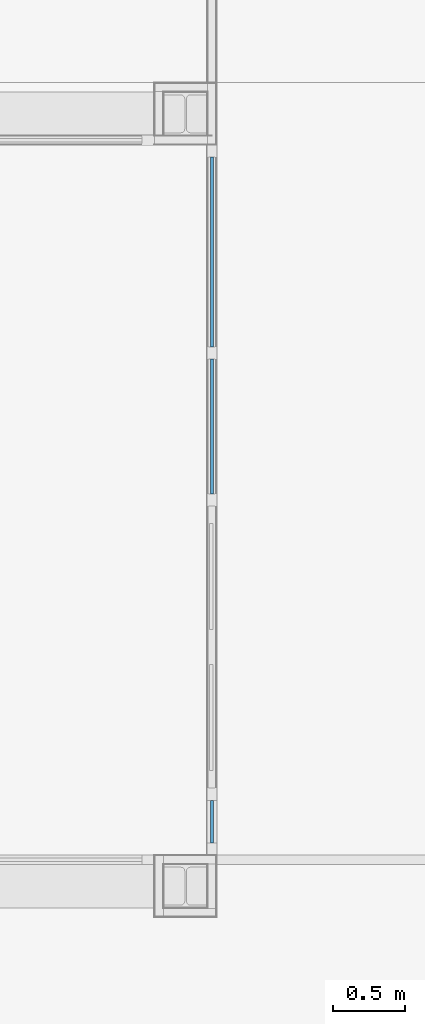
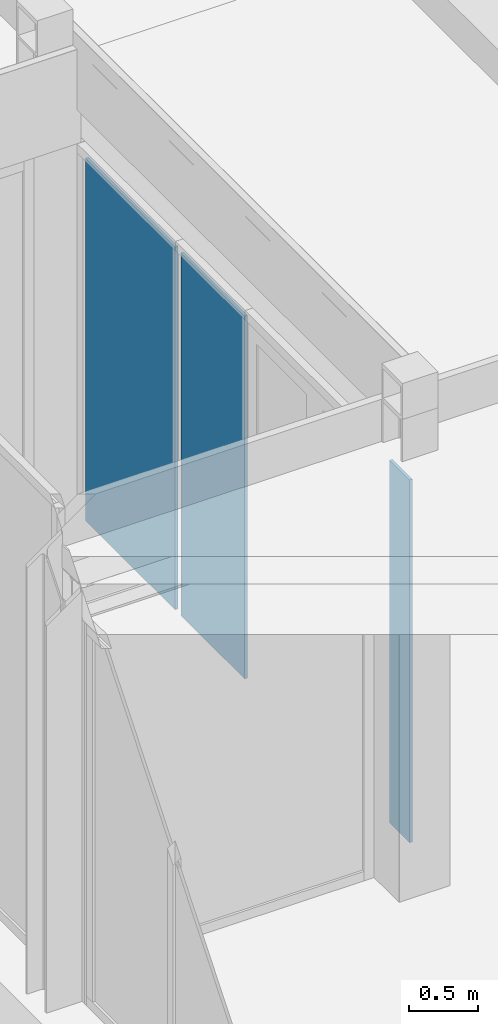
# One storey, part 24 of 99: 3 plates, 1 element without a shape of its own.
"""IFC2X3 building model written with IfcOpenShell, lengths in millimetres."""

from ifc_helpers import new_model, entity, si_unit, converted_unit, derived_unit, money_unit, direction, frame, origin_with_axes, place, context, subcontext, project, spatial, faceted_brep, material, type_object, element, aggregate, save


model = new_model("IFC2X3")

# Units and contexts
model_context = context("Model", 3, precision=0.01, world=origin_with_axes(), true_north=direction((0.0, 1.0)))
body_context = subcontext(model_context, "Body", "Model", "MODEL_VIEW")
ifc_project = project(units=[si_unit("LENGTHUNIT", "METRE", prefix="MILLI"), si_unit("AREAUNIT", "SQUARE_METRE"), si_unit("VOLUMEUNIT", "CUBIC_METRE"), converted_unit("PLANEANGLEUNIT", "DEGREE", entity("IfcPlaneAngleMeasure", 0.0174532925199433), si_unit("PLANEANGLEUNIT", "RADIAN"), dimensions=[0, 0, 0, 0, 0, 0, 0]), money_unit("EUR"), converted_unit("TIMEUNIT", "Year", entity("IfcTimeMeasure", 31557600.0), si_unit("TIMEUNIT", "SECOND"), dimensions=[0, 0, 1, 0, 0, 0, 0]), si_unit("MASSUNIT", "GRAM", prefix="KILO"), si_unit("THERMODYNAMICTEMPERATUREUNIT", "DEGREE_CELSIUS"), si_unit("LUMINOUSINTENSITYUNIT", "LUMEN"), si_unit("ENERGYUNIT", "JOULE", prefix="MEGA"), derived_unit("THERMALCONDUCTANCEUNIT", [(si_unit("POWERUNIT", "WATT"), 1), (si_unit("LENGTHUNIT", "METRE"), -1), (si_unit("THERMODYNAMICTEMPERATUREUNIT", "KELVIN"), -1)]), derived_unit("SPECIFICHEATCAPACITYUNIT", [(si_unit("ENERGYUNIT", "JOULE"), 1), (si_unit("MASSUNIT", "GRAM", prefix="KILO"), -1), (si_unit("THERMODYNAMICTEMPERATUREUNIT", "KELVIN"), -1)]), derived_unit("MASSDENSITYUNIT", [(si_unit("MASSUNIT", "GRAM", prefix="KILO"), 1), (si_unit("VOLUMEUNIT", "CUBIC_METRE"), -1)])], contexts=[model_context])

# Site, building, storey
site_placement = place(None, origin_with_axes())
site = spatial("IfcSite", under=ifc_project, at=site_placement, Name="Site", CompositionType="ELEMENT")
building_placement = place(site_placement, origin_with_axes())
building = spatial("IfcBuilding", under=site, at=building_placement, Name="Naam gebouw", CompositionType="ELEMENT")
storey_placement = place(building_placement, frame((0.0, 0.0, 7650.0), z_axis=(0.0, 0.0, 1.0), x_axis=(1.0, 0.0, 0.0)))
storey = spatial("IfcBuildingStorey", under=building, at=storey_placement, Name="2e verdieping N", CompositionType="ELEMENT", Elevation=7650.0)

# Curtain wall, plates
curtain_wall_type = type_object("IfcCurtainWallType", Name="Curtain Wall:21_CW_alu kozijn 084x065", PredefinedType="NOTDEFINED")
curtain_wall_placement = place(storey_placement, frame((0.0, 0.0, -7650.0), z_axis=(0.0, 0.0, 1.0), x_axis=(1.0, 0.0, 0.0)))
curtain_wall = element("IfcCurtainWall", 1, at=curtain_wall_placement, inside=storey, type_object=curtain_wall_type, Name="Curtain Wall:21_CW_alu kozijn 084x065", ObjectType="Curtain Wall:21_CW_alu kozijn 084x065")
ifc_material = material(Name="Glass")
plate_type_1 = type_object("IfcPlateType", Name="System Panel:31_CWP_alu glas_2", PredefinedType="CURTAIN_PANEL")
plate_1_placement = place(curtain_wall_placement, frame((17473.50000004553, 28401.91242634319, 4234.000000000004), z_axis=(0.0, 0.0, 1.0), x_axis=(0.0, 1.0, 0.0)))
plate_1 = element("IfcPlate", 2, at=plate_1_placement, type_object=plate_type_1, material=ifc_material, Name="System Panel:31_CWP_alu glas_2", ObjectType="CURTAIN_PANEL", context=body_context, shape_type="Brep", body=[
    faceted_brep([(146.9999999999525, -12.00000000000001, 0.0), (146.9999999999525, 11.99999999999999, 0.0), (146.9999999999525, 11.99999999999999, 3232.0), (146.9999999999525, -12.00000000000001, 3232.0), (-146.9999999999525, -11.99999999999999, 0.0), (-146.9999999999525, 12.00000000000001, 0.0), (-146.9999999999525, 12.00000000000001, 3232.0), (-146.9999999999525, -11.99999999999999, 3232.0)], [[[0, 1, 2, 3]], [[0, 4, 5, 1]], [[1, 5, 6, 2]], [[3, 2, 6, 7]], [[4, 0, 3, 7]], [[5, 4, 7, 6]]]),
])
plate_type_2 = type_object("IfcPlateType", Name="System Panel:31_CWP_alu glas_2", PredefinedType="CURTAIN_PANEL")
plate_2_placement = place(curtain_wall_placement, frame((17473.50000001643, 31128.41242627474, 4234.000000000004), z_axis=(0.0, 0.0, 1.0), x_axis=(0.0, 1.0, 0.0)))
plate_2 = element("IfcPlate", 3, at=plate_2_placement, type_object=plate_type_2, material=ifc_material, Name="System Panel:31_CWP_alu glas_2", ObjectType="CURTAIN_PANEL", context=body_context, shape_type="Brep", body=[
    faceted_brep([(465.4999999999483, -12.00000000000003, 0.0), (465.4999999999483, 11.99999999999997, 0.0), (465.4999999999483, 11.99999999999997, 3232.0), (465.4999999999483, -12.00000000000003, 3232.0), (-465.4999999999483, -11.99999999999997, 0.0), (-465.4999999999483, 12.00000000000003, 0.0), (-465.4999999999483, 12.00000000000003, 3232.0), (-465.4999999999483, -11.99999999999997, 3232.0)], [[[0, 1, 2, 3]], [[0, 4, 5, 1]], [[1, 5, 6, 2]], [[3, 2, 6, 7]], [[4, 0, 3, 7]], [[5, 4, 7, 6]]]),
])
plate_type_3 = type_object("IfcPlateType", Name="System Panel:31_CWP_alu glas_2", PredefinedType="CURTAIN_PANEL")
plate_3_placement = place(curtain_wall_placement, frame((17473.50000004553, 32332.41242624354, 4234.000000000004), z_axis=(0.0, 0.0, 1.0), x_axis=(0.0, 1.0, 0.0)))
plate_3 = element("IfcPlate", 4, at=plate_3_placement, type_object=plate_type_3, material=ifc_material, Name="System Panel:31_CWP_alu glas_2", ObjectType="CURTAIN_PANEL", context=body_context, shape_type="Brep", body=[
    faceted_brep([(654.5000000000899, -12.00000000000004, 0.0), (654.5000000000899, 11.99999999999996, 0.0), (654.5000000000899, 11.99999999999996, 3232.0), (654.5000000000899, -12.00000000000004, 3232.0), (-654.5000000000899, -11.99999999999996, 0.0), (-654.5000000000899, 12.00000000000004, 0.0), (-654.5000000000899, 12.00000000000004, 3232.0), (-654.5000000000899, -11.99999999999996, 3232.0)], [[[0, 1, 2, 3]], [[0, 4, 5, 1]], [[1, 5, 6, 2]], [[3, 2, 6, 7]], [[4, 0, 3, 7]], [[5, 4, 7, 6]]]),
])
aggregate(curtain_wall, [plate_1, plate_2, plate_3])

save(model, "model.ifc")
